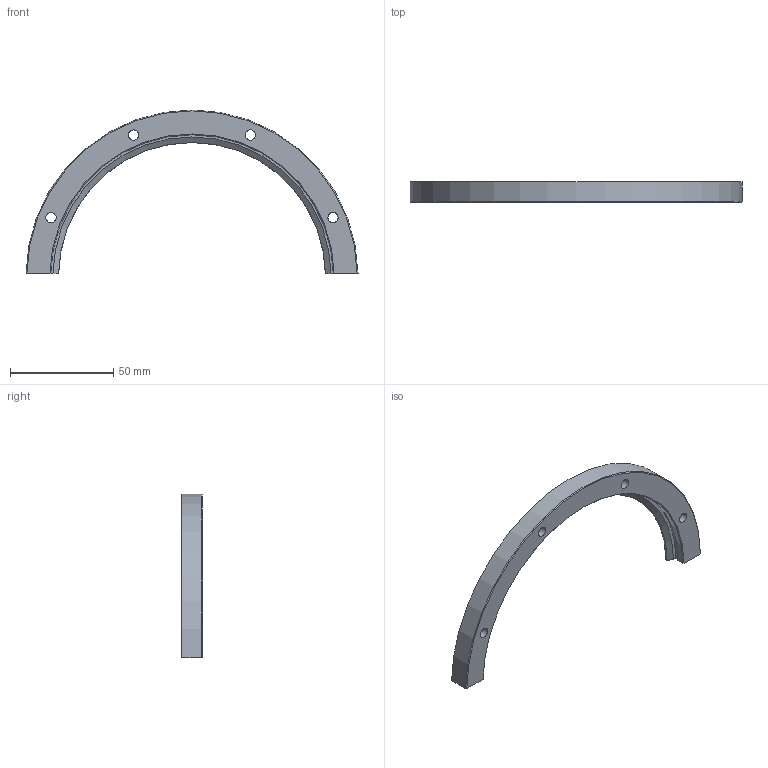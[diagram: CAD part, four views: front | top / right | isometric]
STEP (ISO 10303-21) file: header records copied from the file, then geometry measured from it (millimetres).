
FILE_DESCRIPTION(('STEP AP203'),'1');
FILE_NAME('RIV 161 R180.stp','2022-07-19T05:00:47',(' '),(' '),'Spatial InterOp 3D',' ',' ');
FILE_SCHEMA(('CONFIG_CONTROL_DESIGN'));
Length unit declared in the file: millimetre
Products named in the file (1): RIV 161 R180
Bounding box: 160.99 x 10 x 79.5 mm (x, y, z)
Volume: 28575.7 mm3; surface area: 12259.5 mm2
Topology: 1 solids, 1 shells, 26 faces, 63 edges, 43 vertices
Faces by surface type: cylinder 11, plane 10, cone 4, torus 1
Full cylindrical faces by diameter (mm): 5 x4, 8 x4
Entity records: 810 total; most frequent: CARTESIAN_POINT 159, DIRECTION 124, ORIENTED_EDGE 104, AXIS2_PLACEMENT_3D 55, EDGE_CURVE 52, EDGE_LOOP 46, VERTEX_POINT 40, FACE_OUTER_BOUND 34
